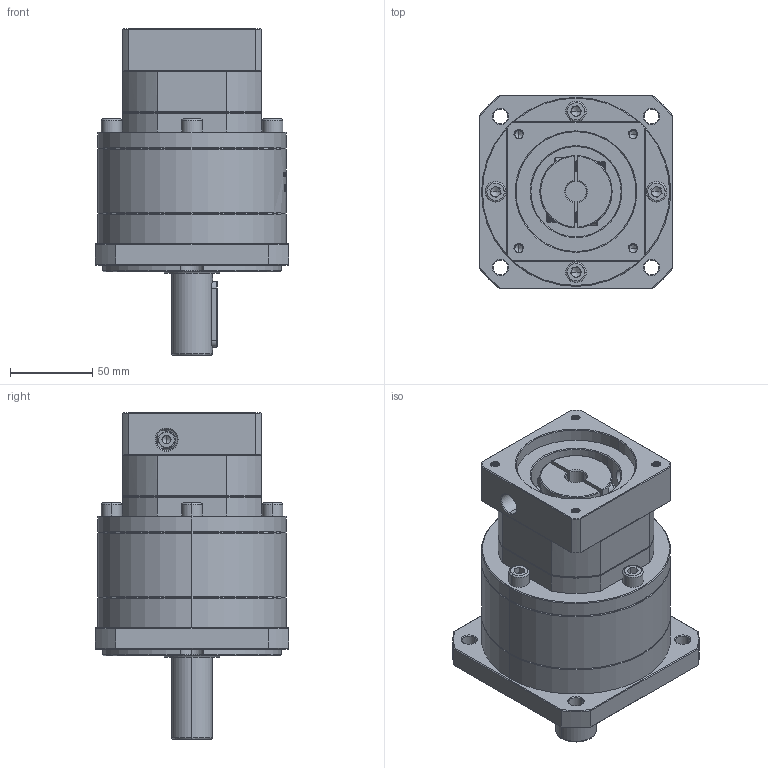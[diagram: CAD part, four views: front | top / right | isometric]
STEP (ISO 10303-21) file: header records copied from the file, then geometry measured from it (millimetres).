
FILE_DESCRIPTION (( 'STEP AP214' ), '1' );
FILE_NAME ('ZF120A-D25-L2-12.7-73-69.5X69.5-M6.step', '2023-03-07T14:59:47', ( '' ), ( 'Microsoft' ), 'SwSTEP 2.0', 'SolidWorks 2016', '' );
FILE_SCHEMA (( 'AUTOMOTIVE_DESIGN' ));
Length unit declared in the file: millimetre
Products named in the file (1): ZF120A-D25-L2-12.7-73-69.5X69.5-M6
Bounding box: 118 x 118 x 199 mm (x, y, z)
Volume: 1276085.3 mm3; surface area: 127126.3 mm2
Topology: 5 solids, 6 shells, 1934 faces, 5064 edges, 3222 vertices
Faces by surface type: plane 883, cylinder 402, bspline 321, cone 313, torus 15
Entity records: 104921 total; most frequent: CARTESIAN_POINT 39877, ORIENTED_EDGE 10068, DIRECTION 7768, EDGE_CURVE 5034, VERTEX_POINT 3222, LINE 2750, VECTOR 2750, AXIS2_PLACEMENT_3D 2509
